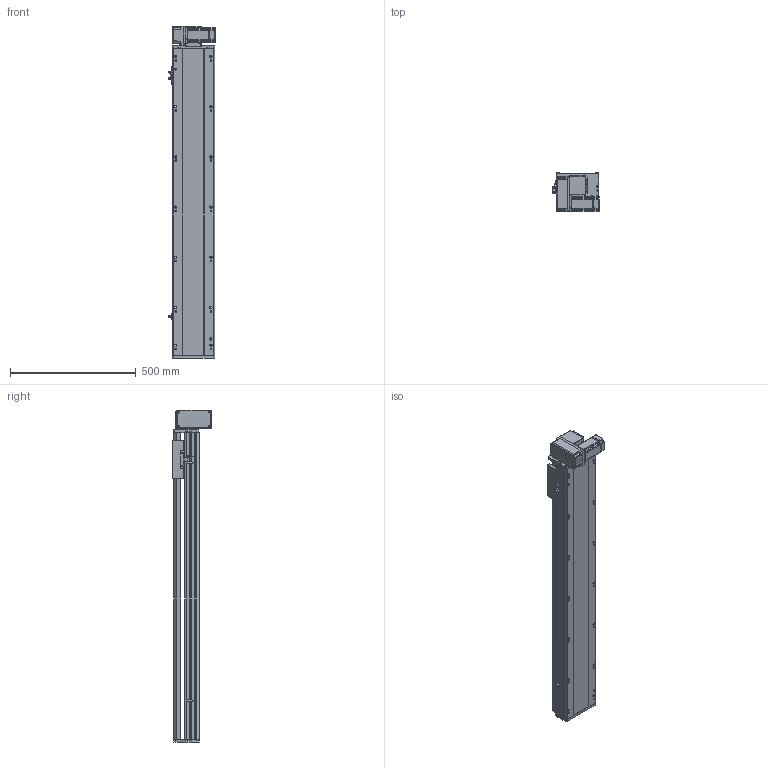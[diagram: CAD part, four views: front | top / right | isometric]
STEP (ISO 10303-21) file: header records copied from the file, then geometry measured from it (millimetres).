
FILE_DESCRIPTION (( 'STEP AP214' ), '1' );
FILE_NAME ('RTB17S-XX-950-LM-M40-C4.STEP', '2025-12-11T06:26:05', ( '' ), ( '' ), 'SwSTEP 2.0', 'SolidWorks 2018', '' );
FILE_SCHEMA (( 'AUTOMOTIVE_DESIGN' ));
Length unit declared in the file: millimetre
Products named in the file (14): RTB14-L-017P^RTB17S-LM-々湍釱蚾饜-400W_RTB17S-XX-XX-LM-M40-C4; RTB17S-L-004佪裝蹟譫蟀諉釱^RTB17S-XX-XX-LM-M40-C4; RTB17S-L-001耜醱啣^RTB17S-XX-XX-LM-M40-C4; 400W侜督萇儂^RTB17S-XX-XX-LM-M40-C4; RTB14-L-018P^RTB17S-LM-々湍釱蚾饜-400W_RTB17S-XX-XX-LM-M40-C4; RTH13-BL-012覜茼え俋离^RTB17S-XX-XX-LM-M40-C4; RTB17S-XX-950-LM-M40-C4; RTB17S-L-007奻裔^RTB17S-XX-XX-LM-M40-C4; OMRON EE-SX672 传感器^RTB17S-XX-XX-LM-M40-C4; RTB17S-LM-々湍釱蚾饜-400W^RTB17S-XX-XX-LM-M40-C4; RTB17-R-011菁釱^RTB17S-XX-XX-LM-M40-C4; RTB14-L-005P--轴承塑胶压盖^RTB17S-LM-皮带座装配-400W_RTB17S-XX-XX-LM-M40-C4; RTB14-L-008-M20--萇儂啣^RTB17S-LM-々湍釱蚾饜-400W_RTB17S-XX-XX-LM-M40-C4; RMP17S-L-014-T20--々湍釱^RTB17S-LM-々湍釱蚾饜-400W_RTB17S-XX-XX-LM-M40-C4
Assembly tree (16 placements, depth 3):
  RTB17S-XX-950-LM-M40-C4
    RTB17-R-011菁釱^RTB17S-XX-XX-LM-M40-C4
    RTB17S-L-007奻裔^RTB17S-XX-XX-LM-M40-C4
    OMRON EE-SX672 传感器^RTB17S-XX-XX-LM-M40-C4  x3
    RTH13-BL-012覜茼え俋离^RTB17S-XX-XX-LM-M40-C4
    RTB17S-L-001耜醱啣^RTB17S-XX-XX-LM-M40-C4
    400W侜督萇儂^RTB17S-XX-XX-LM-M40-C4
    RTB17S-L-004佪裝蹟譫蟀諉釱^RTB17S-XX-XX-LM-M40-C4
    RTB17S-LM-々湍釱蚾饜-400W^RTB17S-XX-XX-LM-M40-C4
      RMP17S-L-014-T20--々湍釱^RTB17S-LM-々湍釱蚾饜-400W_RTB17S-XX-XX-LM-M40-C4
      RTB14-L-005P--轴承塑胶压盖^RTB17S-LM-皮带座装配-400W_RTB17S-XX-XX-LM-M40-C4
      RTB14-L-008-M20--萇儂啣^RTB17S-LM-々湍釱蚾饜-400W_RTB17S-XX-XX-LM-M40-C4
      RTB14-L-017P^RTB17S-LM-々湍釱蚾饜-400W_RTB17S-XX-XX-LM-M40-C4  x2
      RTB14-L-018P^RTB17S-LM-々湍釱蚾饜-400W_RTB17S-XX-XX-LM-M40-C4
Bounding box: 186 x 156.5 x 1322.5 mm (x, y, z)
Volume: 11966621.3 mm3; surface area: 1453600.3 mm2
Topology: 15 solids, 15 shells, 2205 faces, 6087 edges, 3969 vertices
Faces by surface type: plane 1068, cylinder 689, bspline 301, cone 139, torus 8
Entity records: 62633 total; most frequent: CARTESIAN_POINT 17492, ORIENTED_EDGE 9018, DIRECTION 8396, EDGE_CURVE 4509, VERTEX_POINT 2957, AXIS2_PLACEMENT_3D 2887, VECTOR 2622, LINE 2622
